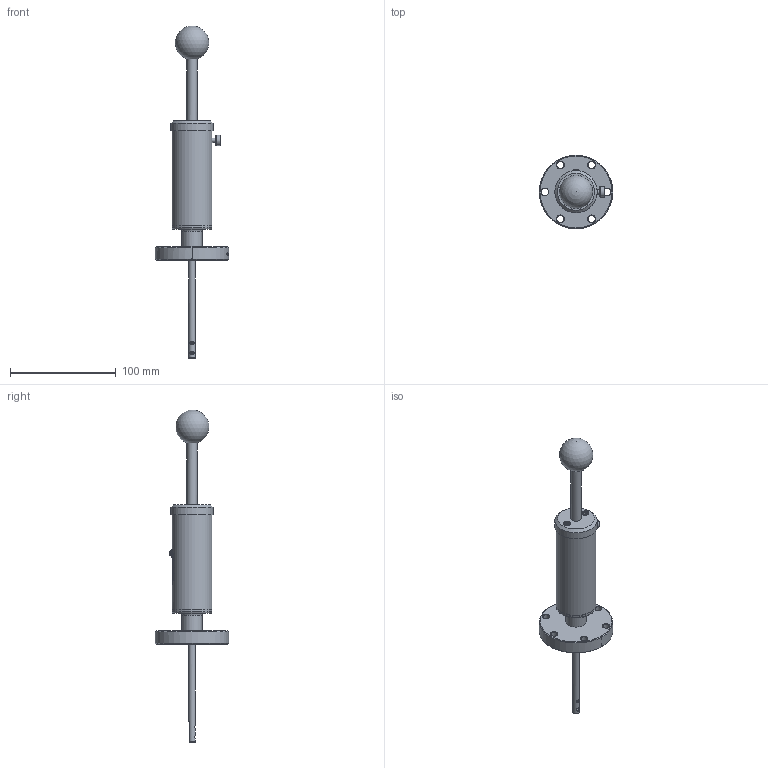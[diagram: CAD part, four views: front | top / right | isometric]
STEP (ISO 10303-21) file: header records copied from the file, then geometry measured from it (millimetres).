
FILE_DESCRIPTION(/* description */ ('Alibre Inc.'),/* implementation_level */ '2;1');
FILE_NAME(/* name */ 'export0',/* time_stamp */ '2015-03-31T09:48:11-07:00',/* author */ (''),/* organization */ (''),/* preprocessor_version */ 'ST-DEVELOPER v14',/* originating_system */ 'Alibre',/* authorisation */ '');
FILE_SCHEMA (('CONFIG_CONTROL_DESIGN'));
Length unit declared in the file: centimetre
Products named in the file (1): ID_1
Bounding box: 69.34 x 69.34 x 313.7 mm (x, y, z)
Volume: 184840.1 mm3; surface area: 34461.9 mm2
Topology: 1 solids, 2 shells, 753 faces, 2025 edges, 1322 vertices
Faces by surface type: plane 388, cylinder 143, bspline 142, cone 71, torus 5, sphere 4
Full cylindrical faces by diameter (mm): 2.414 x2, 4.166 x1, 6.35 x1, 6.858 x2, 6.985 x2, 9.423 x1, 9.525 x1, 9.906 x1, 12.776 x1, 15.748 x1, 19.05 x1, 37.338 x1, 37.465 x2, 40.005 x1
Entity records: 48157 total; most frequent: CARTESIAN_POINT 30928, ORIENTED_EDGE 3970, DIRECTION 2775, EDGE_CURVE 1985, VERTEX_POINT 1317, AXIS2_PLACEMENT_3D 1173, EDGE_LOOP 852, FACE_BOUND 852
